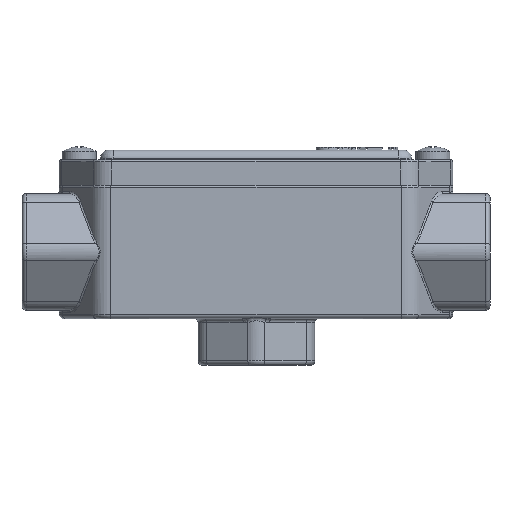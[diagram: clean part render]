
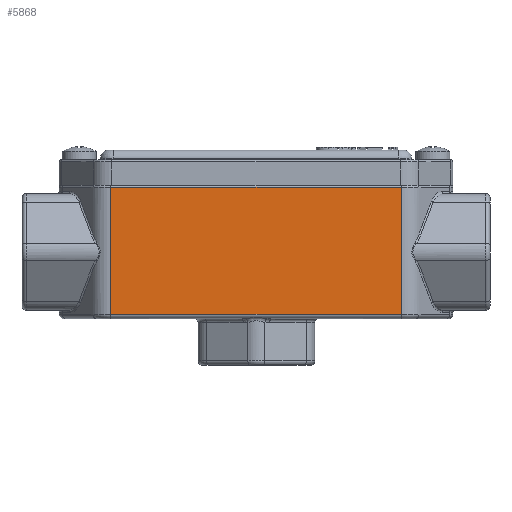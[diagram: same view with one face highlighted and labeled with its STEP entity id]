
A CAD part, front view. The second image highlights one B-rep face of the part: STEP entity #5868.
In plain terms, the highlighted planar face has unit normal (0, -1, 0).
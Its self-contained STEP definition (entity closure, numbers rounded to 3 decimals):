
#1597 = PLANE ( 'NONE',  #1973 ) ;
#1789 = ORIENTED_EDGE ( 'NONE', *, *, #7280, .F. ) ;
#1973 = AXIS2_PLACEMENT_3D ( 'NONE', #9061, #4085, #14158 ) ;
#3067 = LINE ( 'NONE', #6141, #8017 ) ;
#3181 = FACE_OUTER_BOUND ( 'NONE', #4407, .T. ) ;
#3710 = CARTESIAN_POINT ( 'NONE',  ( -66.306, -19.551, -13.783 ) ) ;
#3739 = ORIENTED_EDGE ( 'NONE', *, *, #10361, .F. ) ;
#4085 = DIRECTION ( 'NONE',  ( 0., -1., 0. ) ) ;
#4407 = EDGE_LOOP ( 'NONE', ( #3739, #1789, #11879, #9880 ) ) ;
#4655 = DIRECTION ( 'NONE',  ( -1., 0., 0. ) ) ;
#5117 = VECTOR ( 'NONE', #15939, 1000. ) ;
#5799 = VERTEX_POINT ( 'NONE', #11737 ) ;
#5868 = ADVANCED_FACE ( 'NONE', ( #3181 ), #1597, .T. ) ;
#6141 = CARTESIAN_POINT ( 'NONE',  ( -8.767, -19.551, -13.783 ) ) ;
#6569 = EDGE_CURVE ( 'NONE', #14018, #9804, #15799, .T. ) ;
#6888 = CARTESIAN_POINT ( 'NONE',  ( 2.272, -19.551, 0.967 ) ) ;
#7280 = EDGE_CURVE ( 'NONE', #9755, #5799, #15569, .T. ) ;
#8017 = VECTOR ( 'NONE', #4655, 1000. ) ;
#9061 = CARTESIAN_POINT ( 'NONE',  ( 14.483, -19.551, -14.783 ) ) ;
#9143 = CARTESIAN_POINT ( 'NONE',  ( -8.767, -19.551, 16.217 ) ) ;
#9326 = DIRECTION ( 'NONE',  ( 0., 0., 1. ) ) ;
#9755 = VERTEX_POINT ( 'NONE', #3710 ) ;
#9804 = VERTEX_POINT ( 'NONE', #11110 ) ;
#9880 = ORIENTED_EDGE ( 'NONE', *, *, #6569, .F. ) ;
#10311 = DIRECTION ( 'NONE',  ( 1., 0., 0. ) ) ;
#10361 = EDGE_CURVE ( 'NONE', #5799, #14018, #14815, .T. ) ;
#11110 = CARTESIAN_POINT ( 'NONE',  ( 2.272, -19.551, -13.783 ) ) ;
#11737 = CARTESIAN_POINT ( 'NONE',  ( -66.306, -19.551, 16.217 ) ) ;
#11879 = ORIENTED_EDGE ( 'NONE', *, *, #15035, .F. ) ;
#13817 = VECTOR ( 'NONE', #10311, 1000. ) ;
#14018 = VERTEX_POINT ( 'NONE', #15472 ) ;
#14158 = DIRECTION ( 'NONE',  ( 0., 0., -1. ) ) ;
#14353 = CARTESIAN_POINT ( 'NONE',  ( -66.306, -19.551, 0.967 ) ) ;
#14815 = LINE ( 'NONE', #9143, #13817 ) ;
#14989 = VECTOR ( 'NONE', #9326, 1000. ) ;
#15035 = EDGE_CURVE ( 'NONE', #9804, #9755, #3067, .T. ) ;
#15472 = CARTESIAN_POINT ( 'NONE',  ( 2.272, -19.551, 16.217 ) ) ;
#15569 = LINE ( 'NONE', #14353, #14989 ) ;
#15799 = LINE ( 'NONE', #6888, #5117 ) ;
#15939 = DIRECTION ( 'NONE',  ( 0., 0., -1. ) ) ;
